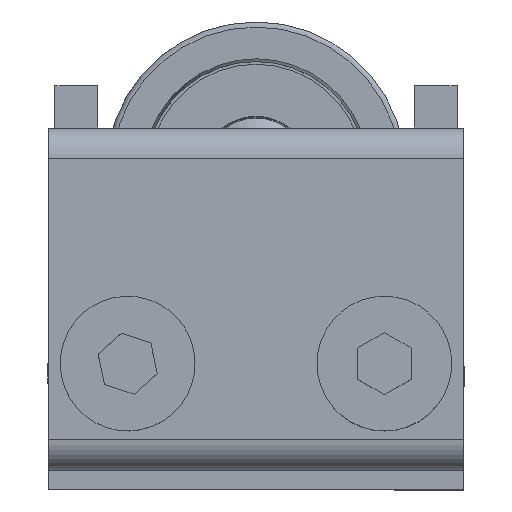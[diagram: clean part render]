
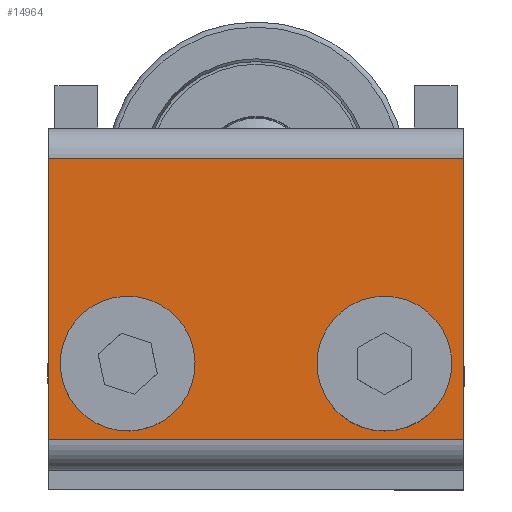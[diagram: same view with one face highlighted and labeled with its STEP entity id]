
A CAD part, top view. The second image highlights one B-rep face of the part: STEP entity #14964.
In plain terms, the highlighted planar face has unit normal (0, 0, 1) as drawn and (0, 0, -1) by its records, which use the part's own axes.
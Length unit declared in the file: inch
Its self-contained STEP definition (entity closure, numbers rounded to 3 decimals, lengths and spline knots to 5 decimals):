
#14657=DIRECTION('',(0.,-1.,0.));
#14658=VECTOR('',#14657,0.82);
#14659=CARTESIAN_POINT('',(-0.6075,0.41,-0.18));
#14660=LINE('',#14659,#14658);
#14683=DIRECTION('',(0.,-1.,0.));
#14684=VECTOR('',#14683,0.82);
#14685=CARTESIAN_POINT('',(0.6075,0.41,-0.18));
#14686=LINE('',#14685,#14684);
#14687=CARTESIAN_POINT('',(0.375,-0.188,-0.18));
#14688=DIRECTION('',(0.,0.,1.));
#14689=DIRECTION('',(1.,0.,0.));
#14690=AXIS2_PLACEMENT_3D('',#14687,#14688,#14689);
#14692=CARTESIAN_POINT('',(0.375,-0.188,-0.18));
#14693=DIRECTION('',(0.,0.,1.));
#14694=DIRECTION('',(-1.,0.,0.));
#14695=AXIS2_PLACEMENT_3D('',#14692,#14693,#14694);
#14697=CARTESIAN_POINT('',(-0.375,-0.188,-0.18));
#14698=DIRECTION('',(0.,0.,1.));
#14699=DIRECTION('',(1.,0.,0.));
#14700=AXIS2_PLACEMENT_3D('',#14697,#14698,#14699);
#14702=CARTESIAN_POINT('',(-0.375,-0.188,-0.18));
#14703=DIRECTION('',(0.,0.,1.));
#14704=DIRECTION('',(-1.,0.,0.));
#14705=AXIS2_PLACEMENT_3D('',#14702,#14703,#14704);
#14711=DIRECTION('',(-1.,0.,0.));
#14712=VECTOR('',#14711,1.215);
#14713=CARTESIAN_POINT('',(0.6075,0.41,-0.18));
#14714=LINE('',#14713,#14712);
#14735=DIRECTION('',(1.,0.,0.));
#14736=VECTOR('',#14735,1.215);
#14737=CARTESIAN_POINT('',(-0.6075,-0.41,-0.18));
#14738=LINE('',#14737,#14736);
#14809=CARTESIAN_POINT('',(0.6075,0.41,-0.18));
#14811=VERTEX_POINT('',#14809);
#14813=CARTESIAN_POINT('',(-0.6075,-0.41,-0.18));
#14815=VERTEX_POINT('',#14813);
#14817=CARTESIAN_POINT('',(-0.6075,0.41,-0.18));
#14818=VERTEX_POINT('',#14817);
#14819=CARTESIAN_POINT('',(0.5,-0.188,-0.18));
#14820=CARTESIAN_POINT('',(0.25,-0.188,-0.18));
#14821=VERTEX_POINT('',#14819);
#14822=VERTEX_POINT('',#14820);
#14841=CARTESIAN_POINT('',(-0.5,-0.188,-0.18));
#14842=CARTESIAN_POINT('',(-0.25,-0.188,-0.18));
#14843=VERTEX_POINT('',#14841);
#14844=VERTEX_POINT('',#14842);
#14849=CARTESIAN_POINT('',(0.6075,-0.41,-0.18));
#14850=VERTEX_POINT('',#14849);
#14939=CARTESIAN_POINT('',(0.6075,0.5,-0.18));
#14940=DIRECTION('',(0.,0.,1.));
#14941=DIRECTION('',(0.,-1.,0.));
#14942=AXIS2_PLACEMENT_3D('',#14939,#14940,#14941);
#14943=PLANE('',#14942);
#14944=ORIENTED_EDGE('',*,*,#14891,.F.);
#14946=ORIENTED_EDGE('',*,*,#14945,.T.);
#14947=ORIENTED_EDGE('',*,*,#14918,.T.);
#14949=ORIENTED_EDGE('',*,*,#14948,.T.);
#14950=EDGE_LOOP('',(#14944,#14946,#14947,#14949));
#14951=FACE_OUTER_BOUND('',#14950,.F.);
#14953=ORIENTED_EDGE('',*,*,#14952,.F.);
#14955=ORIENTED_EDGE('',*,*,#14954,.F.);
#14956=EDGE_LOOP('',(#14953,#14955));
#14957=FACE_BOUND('',#14956,.F.);
#14959=ORIENTED_EDGE('',*,*,#14958,.F.);
#14961=ORIENTED_EDGE('',*,*,#14960,.F.);
#14962=EDGE_LOOP('',(#14959,#14961));
#14963=FACE_BOUND('',#14962,.F.);
#14691=CIRCLE('',#14690,0.125);
#14696=CIRCLE('',#14695,0.125);
#14701=CIRCLE('',#14700,0.125);
#14706=CIRCLE('',#14705,0.125);
#14891=EDGE_CURVE('',#14811,#14850,#14686,.T.);
#14918=EDGE_CURVE('',#14818,#14815,#14660,.T.);
#14945=EDGE_CURVE('',#14811,#14818,#14714,.T.);
#14948=EDGE_CURVE('',#14815,#14850,#14738,.T.);
#14952=EDGE_CURVE('',#14821,#14822,#14691,.T.);
#14954=EDGE_CURVE('',#14822,#14821,#14696,.T.);
#14958=EDGE_CURVE('',#14844,#14843,#14701,.T.);
#14960=EDGE_CURVE('',#14843,#14844,#14706,.T.);
#14964=ADVANCED_FACE('',(#14951,#14957,#14963),#14943,.F.);
